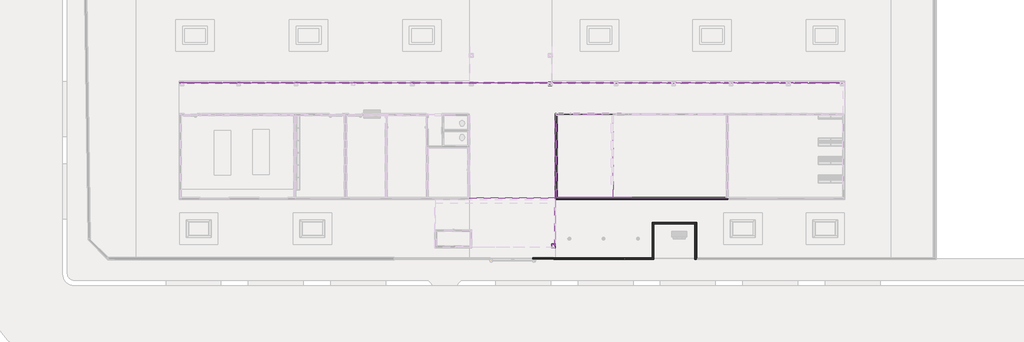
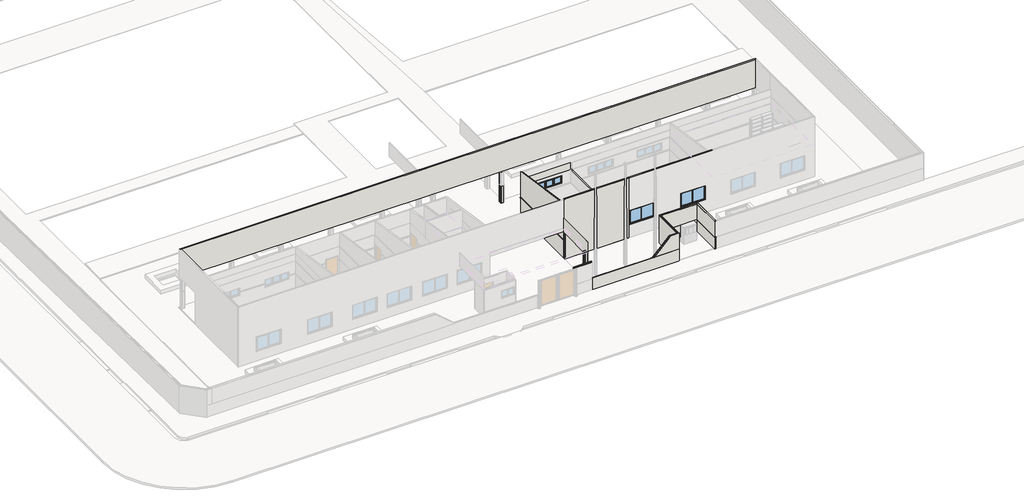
# One storey, part 11 of 28: 53 walls, 3 windows, 2 doors.
"""IFC4 building model written with IfcOpenShell, lengths in millimetres."""

from ifc_helpers import new_model, si_unit, frame, origin, origin_with_axes, place, context, project, spatial, polyline, outline, extrude, faceted_brep, transform, mapped, element, save
from components import door_29174598, pf15_l82cm_5bfc7586, window_2x1_20x1x10_9e9748dd, window_2x60x220_bcaba8dd

model = new_model("IFC4")

# Units and contexts
model_context = context("Model", 3, world=origin())
ifc_project = project(units=[si_unit("LENGTHUNIT", "METRE", prefix="MILLI")], contexts=[model_context])

# Site, building, storey
site = spatial("IfcSite", under=ifc_project)
building = spatial("IfcBuilding", under=site)
storey = spatial("IfcBuildingStorey", under=building, Name="Térreo", Elevation=0.0)

# Doors
placement = place(None, origin())
door_shape = door_29174598(model_context)
element("IfcDoor", 1, ObjectType="FDE_SO_Soleiras1 : SO14_SoleiraRampadaDesnívelAté2cm_L=14cm_Cimentado 2", at=placement, inside=storey, context=model_context, shape_type="MappedRepresentation", body=[
    mapped(door_shape, transform((-27113.0, 10630.0, 240.0), x_axis=(-1.0, 0.0, 0.0), y_axis=(0.0, -1.0, 0.0), z_axis=(0.0, 0.0, 1.0))),
])
pf15_l82cm_shape = pf15_l82cm_5bfc7586(model_context)
element("IfcDoor", 2, ObjectType="FDE_PF15_PF16_PF17_PortaemChapadeFerro : PF15_L82cm", at=placement, inside=storey, context=model_context, shape_type="MappedRepresentation", body=[
    mapped(pf15_l82cm_shape, transform((-27113.0, 10625.0, 240.0), x_axis=(-1.0, 0.0, 0.0), y_axis=(0.0, -1.0, 0.0), z_axis=(0.0, 0.0, 1.0))),
])

# Walls
element("IfcWall", 3, ObjectType="FDE_S712_AlvenariadeTijoloCerâmico/Baiano_Alvenaria_9cm - Existente", at=placement, inside=storey, context=model_context, shape_type="Brep", body=[
    faceted_brep([(-27630.0, 4430.0, 3500.0), (-27630.0, 4430.0, 0.0), (-27630.0, 4520.0, 0.0), (-27630.0, 10580.0, 0.0), (-27630.0, 10670.0, 0.0), (-27630.0, 10670.0, 3500.0), (-27630.0, 10580.0, 3500.0), (-27630.0, 4520.0, 3500.0), (-27720.0, 4430.0, 0.0), (-27720.0, 4430.0, 3500.0), (-27720.0, 10670.0, 3500.0), (-27720.0, 10670.0, 0.0)], [[[0, 1, 2, 3, 4, 5, 6, 7]], [[8, 9, 10, 11]], [[4, 3, 2, 1, 8, 11]], [[0, 7, 6, 5, 10, 9]], [[5, 4, 11, 10]], [[0, 9, 8, 1]]]),
])
element("IfcWall", 4, ObjectType="FDE_S712_AlvenariadeTijoloCerâmico/Baiano_Alvenaria_9cm - Existente", at=placement, inside=storey, context=model_context, shape_type="Brep", body=[
    faceted_brep([(-15180.0, 4520.0, 3500.0), (-15180.0, 4520.0, 0.0), (-15270.0, 4520.0, 0.0), (-27630.0, 4520.0, 0.0), (-27630.0, 4520.0, 3500.0), (-15835.0, 4520.0, 1235.0), (-15835.0, 4520.0, 2505.0), (-17905.0, 4520.0, 2505.0), (-17905.0, 4520.0, 1235.0), (-20135.0, 4520.0, 1235.0), (-20135.0, 4520.0, 2505.0), (-22205.0, 4520.0, 2505.0), (-22205.0, 4520.0, 1235.0), (-15180.0, 4430.0, 0.0), (-15180.0, 4430.0, 3500.0), (-27630.0, 4430.0, 3500.0), (-27630.0, 4430.0, 0.0), (-22251.4878545, 4430.0, 0.0), (-15835.0, 4430.0, 1235.0), (-17905.0, 4430.0, 1235.0), (-17905.0, 4430.0, 2505.0), (-15835.0, 4430.0, 2505.0), (-20135.0, 4430.0, 1235.0), (-22205.0, 4430.0, 1235.0), (-22205.0, 4430.0, 2505.0), (-20135.0, 4430.0, 2505.0)], [[[0, 1, 2, 3, 4], [5, 6, 7, 8], [9, 10, 11, 12]], [[13, 14, 15, 16, 17], [18, 19, 20, 21], [22, 23, 24, 25]], [[3, 2, 1, 13, 17, 16]], [[0, 4, 15, 14]], [[0, 14, 13, 1]], [[6, 5, 18, 21]], [[7, 6, 21, 20]], [[8, 7, 20, 19]], [[5, 8, 19, 18]], [[10, 9, 22, 25]], [[11, 10, 25, 24]], [[12, 11, 24, 23]], [[9, 12, 23, 22]], [[3, 16, 15, 4]]]),
])
element("IfcWall", 5, ObjectType="FDE_S712_AlvenariadeTijoloCerâmico/Baiano_Alvenaria_9cm - Existente", at=placement, inside=storey, context=model_context, shape_type="Brep", body=[
    faceted_brep([(-27630.0, 10580.0, 0.0), (-23620.0, 10580.0, 0.0), (-23620.0, 10580.0, 3500.0), (-27630.0, 10580.0, 3500.0), (-27630.0, 10580.0, 2900.0), (-27630.0, 10580.0, 1824.9435125), (-26431.0, 10580.0, 1965.0), (-26431.0, 10580.0, 2635.0), (-24361.0, 10580.0, 2635.0), (-24361.0, 10580.0, 1965.0), (-27530.0, 10580.0, 240.0), (-27530.0, 10580.0, 1824.9435125), (-27530.0, 10580.0, 2352.0), (-26696.0, 10580.0, 2352.0), (-26696.0, 10580.0, 1824.9435125), (-26696.0, 10580.0, 240.0), (-23620.0, 10670.0, 0.0), (-27630.0, 10670.0, 0.0), (-27630.0, 10670.0, 3500.0), (-23620.0, 10670.0, 3500.0), (-26431.0, 10670.0, 1965.0), (-24361.0, 10670.0, 1965.0), (-24361.0, 10670.0, 2635.0), (-26431.0, 10670.0, 2635.0), (-27530.0, 10670.0, 2352.0), (-27530.0, 10670.0, 240.0), (-26696.0, 10670.0, 240.0), (-26696.0, 10670.0, 2352.0)], [[[0, 1, 2, 3, 4, 5], [6, 7, 8, 9], [10, 11, 12, 13, 14, 15]], [[16, 17, 18, 19], [20, 21, 22, 23], [24, 25, 26, 27]], [[1, 0, 17, 16]], [[3, 2, 19, 18]], [[2, 1, 16, 19]], [[0, 5, 4, 3, 18, 17]], [[7, 6, 20, 23]], [[8, 7, 23, 22]], [[9, 8, 22, 21]], [[6, 9, 21, 20]], [[10, 25, 24, 12, 11]], [[12, 24, 27, 13]], [[13, 27, 26, 15, 14]], [[25, 10, 15, 26]]]),
])
element("IfcWall", 6, ObjectType="FDE_S712_AlvenariadeTijoloCerâmico/Baiano_Alvenaria_9cm - Existente", at=placement, inside=storey, context=model_context, shape_type="Brep", body=[
    faceted_brep([(-27630.0, 4520.0000015, 5007.4999998), (-27630.0, 4520.0000005, 2530.0), (-27630.0, 4520.0, 1824.9435125), (-27630.0, 4520.0, 1731.0528047), (-27630.0, 4520.0, 0.0), (-27630.0, 4550.0000005, 0.0), (-27630.0, 10550.0, 0.0), (-27630.0, 10580.0, 0.0), (-27630.0, 10580.0, 1731.0528047), (-27630.0, 10580.0, 1824.9435125), (-27630.0, 10580.0, 2900.0), (-27630.0, 10580.0, 4098.5), (-27720.0, 4520.0, 0.0), (-27720.0, 4520.0, 2530.0), (-27720.0, 4520.0000005, 5007.4999999), (-27720.0, 10580.0, 4098.5), (-27720.0, 10580.0, 0.0)], [[[0, 1, 2, 3, 4, 5, 6, 7, 8, 9, 10, 11]], [[12, 13, 14, 15, 16]], [[7, 6, 5, 4, 12, 16]], [[11, 10, 9, 8, 7, 16, 15]], [[0, 11, 15, 14]], [[1, 13, 12, 4, 3, 2]], [[0, 14, 13, 1]]]),
])
element("IfcWall", 7, ObjectType="FDE_S712_AlvenariadeTijoloCerâmico/Baiano_Alvenaria_9cm - Existente", at=placement, inside=storey, context=model_context, shape_type="Brep", body=[
    faceted_brep([(-15270.0, 4519.9999994, 0.0), (-15300.0, 4519.9999994, 0.0), (-27630.0, 4519.9999994, 0.0), (-27630.0, 4519.9999994, 220.0), (-27630.0, 4519.9999994, 1731.0528047), (-27630.0, 4519.9999994, 1824.9435125), (-22205.0, 4519.9999994, 1824.9435125), (-22205.0, 4519.9999994, 1731.0528047), (-22205.0, 4519.9999994, 1235.0), (-20135.0, 4519.9999994, 1235.0), (-20135.0, 4519.9999994, 1731.0528047), (-20135.0, 4519.9999994, 1824.9435125), (-17905.0, 4519.9999994, 1824.9435125), (-17905.0, 4519.9999994, 1731.0528047), (-17905.0, 4519.9999994, 1235.0), (-15835.0, 4519.9999994, 1235.0), (-15835.0, 4519.9999994, 1731.0528047), (-15835.0, 4519.9999994, 1824.9435125), (-15301.0, 4519.9999994, 1824.9435125), (-15301.0, 4519.9999994, 2900.0), (-27630.0, 4519.9999994, 2900.0), (-27630.0, 4519.9999994, 3500.0), (-27675.0, 4519.9999994, 3500.0), (-27675.0, 4519.9999994, 5400.0), (-15225.0, 4519.9999994, 5400.0), (-15225.0, 4519.9999994, 5045.0), (-15225.0, 4519.9999994, 4832.2457895), (-15270.0, 4519.9999994, 4832.2457895), (-15270.0, 4519.9999994, 2900.0), (-15270.0, 4519.9999994, 1824.9435125), (-15270.0, 4519.9999994, 1731.0528047), (-15270.0, 4519.9999994, 220.0), (-27630.0, 4429.9999994, 0.0), (-22251.4878545, 4429.9999994, 0.0), (-15270.0, 4429.9999994, 0.0), (-15270.0, 4429.9999994, 4832.2457895), (-15225.0, 4429.9999994, 4832.2457895), (-15225.0, 4429.9999994, 5045.0), (-15225.0, 4429.9999994, 5400.0), (-22251.4878545, 4429.9999994, 5400.0), (-27675.0, 4429.9999994, 5400.0), (-27675.0, 4429.9999994, 3500.0), (-27630.0, 4429.9999994, 3500.0), (-15835.0, 4429.9999994, 2505.0), (-15835.0, 4429.9999994, 1235.0), (-17905.0, 4429.9999994, 1235.0), (-17905.0, 4429.9999994, 2505.0), (-20135.0, 4429.9999994, 2505.0), (-20135.0, 4429.9999994, 1235.0), (-22205.0, 4429.9999994, 1235.0), (-22205.0, 4429.9999994, 2505.0), (-15835.0, 4519.0000005, 2505.0), (-15835.0, 4519.0000005, 1824.9435125), (-17905.0, 4519.0000005, 2505.0), (-17905.0, 4519.0000005, 1824.9435125), (-20135.0, 4519.0000005, 2505.0), (-20135.0, 4519.0000005, 1824.9435125), (-22205.0, 4519.0000005, 2505.0), (-22205.0, 4519.0000005, 1824.9435125), (-27630.0, 4519.0000005, 2900.0), (-15301.0, 4519.0000005, 2900.0), (-15301.0, 4519.0000005, 1824.9435125), (-27630.0, 4519.0000005, 1824.9435125)], [[[0, 1, 2, 3, 4, 5, 6, 7, 8, 9, 10, 11, 12, 13, 14, 15, 16, 17, 18, 19, 20, 21, 22, 23, 24, 25, 26, 27, 28, 29, 30, 31]], [[32, 33, 34, 35, 36, 37, 38, 39, 40, 41, 42], [43, 44, 45, 46], [47, 48, 49, 50]], [[44, 43, 51, 52, 17, 16, 15]], [[43, 46, 53, 51]], [[46, 45, 14, 13, 12, 54, 53]], [[15, 14, 45, 44]], [[48, 47, 55, 56, 11, 10, 9]], [[47, 50, 57, 55]], [[50, 49, 8, 7, 6, 58, 57]], [[9, 8, 49, 48]], [[0, 31, 30, 29, 28, 27, 35, 34]], [[59, 60, 61, 52, 51, 53, 54, 56, 55, 57, 58, 62]], [[56, 54, 12, 11]], [[52, 61, 18, 17]], [[62, 58, 6, 5]], [[60, 59, 20, 19]], [[61, 60, 19, 18]], [[2, 1, 0, 34, 33, 32]], [[24, 23, 40, 39, 38]], [[26, 25, 24, 38, 37, 36]], [[26, 36, 35, 27]], [[41, 22, 21, 42]], [[2, 32, 42, 21, 20, 59, 62, 5, 4, 3]], [[40, 23, 22, 41]]]),
])
element("IfcWall", 8, ObjectType="ACM Verde Folha_Marquise", at=placement, inside=storey, context=model_context, shape_type="Brep", body=[
    faceted_brep([(-27770.0, 4400.0000005, 2530.0), (-27770.0, 928.5326612, 2530.0), (-27770.0, 928.5326612, 2900.0), (-27770.0, 918.5326612, 2900.0), (-27770.0, 898.5326612, 2900.0), (-27770.0, 898.5326612, 3790.9420848), (-27770.0, 918.5326612, 3790.9420848), (-27770.0, 4400.0000017, 3790.9420848), (-27770.0, 4400.0000017, 2891.0), (-27750.0, 4400.0000005, 2530.0), (-27750.0, 4400.0000005, 2891.0), (-27750.0, 4400.0000017, 3790.9420848), (-27750.0, 898.5326612, 3790.9420848), (-27750.0, 898.5326612, 2900.0), (-27750.0, 928.5326612, 2900.0), (-27750.0, 928.5326612, 2530.0)], [[[0, 1, 2, 3, 4, 5, 6, 7, 8]], [[9, 10, 11, 12, 13, 14, 15]], [[1, 0, 9, 15]], [[7, 6, 5, 12, 11]], [[0, 8, 10, 9]], [[8, 7, 11, 10]], [[2, 1, 15, 14]], [[5, 4, 13, 12]], [[13, 4, 3, 2, 14]]]),
])
element("IfcWall", 9, ObjectType="Faixa - Revestimento Cerâmico Verde Folha 10x10cm", at=placement, inside=storey, context=model_context, shape_type="SweptSolid", body=[
    extrude(outline(polyline([(-20560.9444222, 32.3387091), (-27865.8320115, 32.3387091), (-27865.8320115, 62.3387091), (-20560.9444222, 62.3387091), (-20560.9444222, 32.3387091)])), origin_with_axes(), (0.0, 0.0, 1.0), 1156.7860555),
])
element("IfcWall", 10, ObjectType="Revestimento Cerâmico 10x10cm", at=placement, inside=storey, context=model_context, shape_type="Brep", body=[
    faceted_brep([(-27720.0, 4400.0000005, 220.0), (-27720.0, 10685.0, 220.0), (-27720.0, 10685.0, 1731.0528047), (-27720.0, 10655.0, 1731.0528047), (-27720.0, 4400.0000005, 1731.0528047), (-27750.0, 4400.0000005, 220.0), (-27750.0, 4400.0000005, 1731.0528047), (-27750.0, 10685.0, 1731.0528047), (-27750.0, 10685.0, 220.0)], [[[0, 1, 2, 3, 4]], [[5, 6, 7, 8]], [[1, 0, 5, 8]], [[4, 3, 2, 7, 6]], [[2, 1, 8, 7]], [[0, 4, 6, 5]]]),
])
element("IfcWall", 11, ObjectType="Pardes Externas_Pintura Acrílica Branco Neve", at=placement, inside=storey, context=model_context, shape_type="Brep", body=[
    faceted_brep([(-27720.0, 4520.0, 1824.9435125), (-27720.0, 10670.0, 1824.9435125), (-27720.0, 10685.0, 1824.9435125), (-27720.0, 10691.0, 1824.9435125), (-27720.0, 10691.0, 3944.0), (-27720.0, 10691.0, 4081.85), (-27720.0, 4520.0000015, 5007.4999998), (-27741.0, 4520.0, 1824.9435125), (-27741.0, 4520.0, 2530.0), (-27741.0, 4520.0, 5007.5), (-27741.0, 4541.0, 5004.35), (-27741.0, 10691.0, 4081.85), (-27741.0, 10691.0, 1824.9435125)], [[[0, 1, 2, 3, 4, 5, 6]], [[7, 8, 9, 10, 11, 12]], [[3, 2, 1, 0, 7, 12]], [[5, 4, 3, 12, 11]], [[6, 5, 11, 10, 9]], [[0, 6, 9, 8, 7]]]),
])
element("IfcWall", 12, ObjectType="Revestimento Cerâmico 10x10cm", at=placement, inside=storey, context=model_context, shape_type="Brep", body=[
    faceted_brep([(-27630.0, 10550.0, 220.0), (-27630.0, 4520.0, 220.0), (-27630.0, 4520.0, 1731.0528047), (-27630.0, 4550.0000005, 1731.0528047), (-27630.0, 4580.0000005, 1731.0528047), (-27630.0, 10550.0, 1731.0528047), (-27600.0, 10550.0, 220.0), (-27600.0, 10550.0, 1731.0528047), (-27600.0, 4520.0, 1731.0528047), (-27600.0, 4520.0, 220.0)], [[[0, 1, 2, 3, 4, 5]], [[6, 7, 8, 9]], [[1, 0, 6, 9]], [[5, 4, 3, 2, 8, 7]], [[0, 5, 7, 6]], [[2, 1, 9, 8]]]),
])
element("IfcWall", 13, ObjectType="Revestimento Cerâmico 10x10cm", at=placement, inside=storey, context=model_context, shape_type="Brep", body=[
    faceted_brep([(-27630.0, 4520.0000005, 0.0), (-15300.0, 4520.0000005, 0.0), (-15300.0, 4520.0000005, 220.0), (-15300.0, 4520.0000005, 1731.0528047), (-15835.0, 4520.0000005, 1731.0528047), (-15835.0, 4520.0000005, 1235.0), (-17905.0, 4520.0000005, 1235.0), (-17905.0, 4520.0000005, 1731.0528047), (-20135.0, 4520.0000005, 1731.0528047), (-20135.0, 4520.0000005, 1235.0), (-22205.0, 4520.0000005, 1235.0), (-22205.0, 4520.0000005, 1731.0528047), (-27630.0, 4520.0000005, 1731.0528047), (-15300.0, 4550.0000005, 0.0), (-27630.0, 4550.0000005, 0.0), (-27630.0, 4550.0000005, 1731.0528047), (-22205.0, 4550.0000005, 1731.0528047), (-22205.0, 4550.0000005, 1235.0), (-20135.0, 4550.0000005, 1235.0), (-20135.0, 4550.0000005, 1731.0528047), (-17905.0, 4550.0000005, 1731.0528047), (-17905.0, 4550.0000005, 1235.0), (-15835.0, 4550.0000005, 1235.0), (-15835.0, 4550.0000005, 1731.0528047), (-15300.0, 4550.0000005, 1731.0528047)], [[[0, 1, 2, 3, 4, 5, 6, 7, 8, 9, 10, 11, 12]], [[13, 14, 15, 16, 17, 18, 19, 20, 21, 22, 23, 24]], [[1, 0, 14, 13]], [[12, 11, 16, 15]], [[19, 8, 7, 20]], [[3, 24, 23, 4]], [[1, 13, 24, 3, 2]], [[18, 9, 8, 19]], [[10, 17, 16, 11]], [[9, 18, 17, 10]], [[22, 5, 4, 23]], [[6, 21, 20, 7]], [[5, 22, 21, 6]], [[14, 0, 12, 15]]]),
])
element("IfcWall", 14, ObjectType="Faixa - Revestimento Cerâmico Verde Folha 10x10cm", at=placement, inside=storey, context=model_context, shape_type="Brep", body=[
    faceted_brep([(-27530.0, 10580.0, 1731.0528047), (-27630.0, 10580.0, 1731.0528047), (-27630.0, 10580.0, 1824.9435125), (-27530.0, 10580.0, 1824.9435125), (-27530.0, 10550.0, 1731.0528047), (-27530.0, 10550.0, 1824.9435125), (-27600.0, 10550.0, 1824.9435125), (-27630.0, 10550.0, 1824.9435125), (-27630.0, 10550.0, 1731.0528047), (-27600.0, 10550.0, 1731.0528047)], [[[0, 1, 2, 3]], [[4, 5, 6, 7, 8, 9]], [[1, 0, 4, 9, 8]], [[3, 2, 7, 6, 5]], [[0, 3, 5, 4]], [[2, 1, 8, 7]]]),
])
element("IfcWall", 15, ObjectType="Faixa - Revestimento Cerâmico Verde Folha 10x10cm", at=placement, inside=storey, context=model_context, shape_type="Brep", body=[
    faceted_brep([(-27630.0, 10550.0, 1731.0528047), (-27630.0, 4550.0000005, 1731.0528047), (-27630.0, 4520.0, 1731.0528047), (-27630.0, 4520.0, 1824.9435125), (-27630.0, 4550.0000005, 1824.9435125), (-27630.0, 10550.0, 1824.9435125), (-27600.0, 10550.0, 1731.0528047), (-27600.0, 10550.0, 1824.9435125), (-27600.0, 4520.0, 1824.9435125), (-27600.0, 4520.0, 1731.0528047)], [[[0, 1, 2, 3, 4, 5]], [[6, 7, 8, 9]], [[2, 1, 0, 6, 9]], [[5, 4, 3, 8, 7]], [[0, 5, 7, 6]], [[3, 2, 9, 8]]]),
])
element("IfcWall", 16, ObjectType="Faixa - Revestimento Cerâmico Verde Folha 10x10cm", at=placement, inside=storey, context=model_context, shape_type="SweptSolid", body=[
    extrude(outline(polyline([(-15300.0, 4580.0000005), (-15300.0, 4550.0000005), (-15835.0, 4550.0000005), (-15835.0, 4580.0000005), (-15300.0, 4580.0000005)])), frame((0.0, 0.0, 1731.0528047), z_axis=(0.0, 0.0, 1.0), x_axis=(1.0, 0.0, 0.0)), (0.0, 0.0, 1.0), 93.8907079),
    extrude(outline(polyline([(-20135.0, 4550.0000005), (-20135.0, 4580.0000005), (-17905.0, 4580.0000005), (-17905.0, 4550.0000005), (-20135.0, 4550.0000005)])), frame((0.0, 0.0, 1731.0528047), z_axis=(0.0, 0.0, 1.0), x_axis=(1.0, 0.0, 0.0)), (0.0, 0.0, 1.0), 93.8907079),
    extrude(outline(polyline([(-27630.0, 4550.0000005), (-27630.0, 4580.0000005), (-22205.0, 4580.0000005), (-22205.0, 4550.0000005), (-27630.0, 4550.0000005)])), frame((0.0, 0.0, 1731.0528047), z_axis=(0.0, 0.0, 1.0), x_axis=(1.0, 0.0, 0.0)), (0.0, 0.0, 1.0), 93.8907079),
])
element("IfcWall", 17, ObjectType="Pardes Internas_Pintura Acrílica Branco Neve 2", at=placement, inside=storey, context=model_context, shape_type="Brep", body=[
    faceted_brep([(-27630.0, 10549.0, 1824.9435125), (-27630.0, 4580.0000005, 1824.9435125), (-27630.0, 4550.0000005, 1824.9435125), (-27630.0, 4520.0, 1824.9435125), (-27630.0, 4520.0, 2530.0), (-27630.0, 4520.0, 2900.0), (-27630.0, 10549.0, 2900.0), (-27599.0, 10549.0, 1824.9435125), (-27599.0, 10549.0, 2900.0), (-27599.0, 4520.0, 2900.0), (-27599.0, 4520.0, 1824.9435125), (-27600.0, 4520.0, 1824.9435125)], [[[0, 1, 2, 3, 4, 5, 6]], [[7, 8, 9, 10]], [[3, 2, 1, 0, 7, 10, 11]], [[6, 5, 9, 8]], [[0, 6, 8, 7]], [[3, 11, 10, 9, 5, 4]]]),
])
element("IfcWall", 18, ObjectType="Pardes Internas_Pintura Acrílica Branco Neve 2", at=placement, inside=storey, context=model_context, shape_type="Brep", body=[
    faceted_brep([(-15301.0, 4519.0000005, 2900.0), (-27630.0, 4519.0000005, 2900.0), (-27630.0, 4519.0000005, 1824.9435125), (-22205.0, 4519.0000005, 1824.9435125), (-22205.0, 4519.0000005, 2505.0), (-20135.0, 4519.0000005, 2505.0), (-20135.0, 4519.0000005, 1824.9435125), (-17905.0, 4519.0000005, 1824.9435125), (-17905.0, 4519.0000005, 2505.0), (-15835.0, 4519.0000005, 2505.0), (-15835.0, 4519.0000005, 1824.9435125), (-15301.0, 4519.0000005, 1824.9435125), (-27630.0, 4550.0000005, 2900.0), (-15301.0, 4550.0000005, 2900.0), (-15301.0, 4550.0000005, 1824.9435125), (-15835.0, 4550.0000005, 1824.9435125), (-15835.0, 4550.0000005, 2505.0), (-17905.0, 4550.0000005, 2505.0), (-17905.0, 4550.0000005, 1824.9435125), (-20135.0, 4550.0000005, 1824.9435125), (-20135.0, 4550.0000005, 2505.0), (-22205.0, 4550.0000005, 2505.0), (-22205.0, 4550.0000005, 1824.9435125), (-27630.0, 4550.0000005, 1824.9435125), (-17905.0, 4519.9999994, 1824.9435125), (-20135.0, 4519.9999994, 1824.9435125), (-15301.0, 4520.0, 1824.9435125), (-15835.0, 4519.9999994, 1824.9435125), (-27630.0, 4519.9999994, 1824.9435125), (-22205.0, 4519.9999994, 1824.9435125), (-15301.0, 4520.0, 2900.0), (-27630.0, 4519.9999994, 2900.0)], [[[0, 1, 2, 3, 4, 5, 6, 7, 8, 9, 10, 11]], [[12, 13, 14, 15, 16, 17, 18, 19, 20, 21, 22, 23]], [[18, 24, 7, 6, 25, 19]], [[14, 26, 11, 10, 27, 15]], [[2, 28, 23, 22, 29, 3]], [[1, 0, 30, 13, 12, 31]], [[11, 26, 14, 13, 30, 0]], [[9, 16, 15, 27, 10]], [[16, 9, 8, 17]], [[17, 8, 7, 24, 18]], [[5, 20, 19, 25, 6]], [[20, 5, 4, 21]], [[21, 4, 3, 29, 22]], [[23, 28, 2, 1, 31, 12]]]),
])
element("IfcWall", 19, ObjectType="FDE_S712_AlvenariadeTijoloCerâmico/Baiano_Alvenaria_9cm", at=placement, inside=storey, context=model_context, shape_type="SweptSolid", body=[
    extrude(outline(polyline([(-55048.4091269, 12950.0), (-6770.0, 12950.0), (-6770.0, 12860.0), (-55048.4091269, 12860.0), (-55048.4091269, 12950.0)])), frame((0.0, 0.0, 2900.0), z_axis=(0.0, 0.0, 1.0), x_axis=(1.0, 0.0, 0.0)), (0.0, 0.0, 1.0), 2500.0),
])
element("IfcWall", 20, ObjectType="Pintura Externa - Tinta Acrílica Verbrás  Verde Água", at=placement, inside=storey, context=model_context, shape_type="Brep", body=[
    faceted_brep([(-55093.4091269, 12950.0, 2900.0), (-6680.0, 12950.0, 2900.0), (-6680.0, 12950.0, 5400.0), (-55093.4091269, 12950.0, 5400.0), (-55093.4091269, 12980.0, 2900.0), (-55093.4091269, 12980.0, 5400.0), (-6680.0, 12980.0, 5400.0), (-6680.0, 12980.0, 2900.0), (-27979.0, 12980.0, 2900.0), (-27999.0, 12980.0, 2900.0), (-33954.4091269, 12980.0, 2900.0), (-33974.4091269, 12980.0, 2900.0)], [[[0, 1, 2, 3]], [[4, 5, 6, 7, 8, 9, 10, 11]], [[1, 0, 4, 11, 10, 9, 8, 7]], [[3, 2, 6, 5]], [[2, 1, 7, 6]], [[0, 3, 5, 4]]]),
])
element("IfcWall", 21, ObjectType="Pardes Externas_Pintura Acrílica Branco Neve", at=placement, inside=storey, context=model_context, shape_type="Brep", body=[
    faceted_brep([(-28000.7378789, 1128.5326612, 1794.0), (-27979.7378789, 1128.5326612, 1794.0), (-27779.7378789, 1128.5326612, 1794.0), (-27758.7378789, 1128.5326612, 1794.0), (-27758.7378789, 1128.5326612, 2900.0), (-27779.7378789, 1128.5326612, 2900.0), (-27979.7378789, 1128.5326612, 2900.0), (-28000.7378789, 1128.5326612, 2900.0), (-28000.7378789, 1149.5326612, 1794.0), (-28000.7378789, 1149.5326612, 2900.0), (-27758.7378789, 1149.5326612, 2900.0), (-27758.7378789, 1149.5326612, 1794.0)], [[[0, 1, 2, 3, 4, 5, 6, 7]], [[8, 9, 10, 11]], [[3, 2, 1, 0, 8, 11]], [[7, 6, 5, 4, 10, 9]], [[0, 7, 9, 8]], [[4, 3, 11, 10]]]),
])
element("IfcWall", 22, ObjectType="Revestimento Cerâmico 10x10cm", at=placement, inside=storey, context=model_context, shape_type="Brep", body=[
    faceted_brep([(-28009.7378789, 1128.5326612, 194.0), (-27979.7378789, 1128.5326612, 194.0), (-27779.7378789, 1128.5326612, 194.0), (-27749.7378789, 1128.5326612, 194.0), (-27749.7378789, 1128.5326612, 1694.0), (-27779.7378789, 1128.5326612, 1694.0), (-27979.7378789, 1128.5326612, 1694.0), (-28009.7378789, 1128.5326612, 1694.0), (-28009.7378789, 1158.5326612, 194.0), (-28009.7378789, 1158.5326612, 1694.0), (-27749.7378789, 1158.5326612, 1694.0), (-27749.7378789, 1158.5326612, 194.0)], [[[0, 1, 2, 3, 4, 5, 6, 7]], [[8, 9, 10, 11]], [[3, 2, 1, 0, 8, 11]], [[7, 6, 5, 4, 10, 9]], [[0, 7, 9, 8]], [[4, 3, 11, 10]]]),
])
element("IfcWall", 23, ObjectType="Revestimento Cerâmico 10x10cm", at=placement, inside=storey, context=model_context, shape_type="Brep", body=[
    faceted_brep([(-27979.7378789, 898.5326612, 194.0), (-27979.7378789, 928.5326612, 194.0), (-27979.7378789, 1128.5326612, 194.0), (-27979.7378789, 1128.5326612, 1694.0), (-27979.7378789, 928.5326612, 1694.0), (-27979.7378789, 898.5326612, 1694.0), (-28009.7378789, 898.5326612, 194.0), (-28009.7378789, 898.5326612, 1694.0), (-28009.7378789, 1128.5326612, 1694.0), (-28009.7378789, 1128.5326612, 194.0)], [[[0, 1, 2, 3, 4, 5]], [[6, 7, 8, 9]], [[2, 1, 0, 6, 9]], [[5, 4, 3, 8, 7]], [[3, 2, 9, 8]], [[0, 5, 7, 6]]]),
])
element("IfcWall", 24, ObjectType="Revestimento Cerâmico 10x10cm", at=placement, inside=storey, context=model_context, shape_type="Brep", body=[
    faceted_brep([(-27779.7378789, 1128.5326612, 194.0), (-27779.7378789, 928.5326612, 194.0), (-27779.7378789, 898.5326612, 194.0), (-27779.7378789, 898.5326612, 1694.0), (-27779.7378789, 928.5326612, 1694.0), (-27779.7378789, 1128.5326612, 1694.0), (-27749.7378789, 1128.5326612, 194.0), (-27749.7378789, 1128.5326612, 1694.0), (-27749.7378789, 898.5326612, 1694.0), (-27749.7378789, 898.5326612, 194.0)], [[[0, 1, 2, 3, 4, 5]], [[6, 7, 8, 9]], [[2, 1, 0, 6, 9]], [[5, 4, 3, 8, 7]], [[0, 5, 7, 6]], [[3, 2, 9, 8]]]),
])
element("IfcWall", 25, ObjectType="Faixa - Revestimento Cerâmico Verde Folha 10x10cm", at=placement, inside=storey, context=model_context, shape_type="Brep", body=[
    faceted_brep([(-28009.7378789, 1128.5326612, 1694.0), (-27979.7378789, 1128.5326612, 1694.0), (-27779.7378789, 1128.5326612, 1694.0), (-27749.7378789, 1128.5326612, 1694.0), (-27749.7378789, 1128.5326612, 1794.0), (-27779.7378789, 1128.5326612, 1794.0), (-27979.7378789, 1128.5326612, 1794.0), (-28009.7378789, 1128.5326612, 1794.0), (-28009.7378789, 1158.5326612, 1694.0), (-28009.7378789, 1158.5326612, 1794.0), (-27749.7378789, 1158.5326612, 1794.0), (-27749.7378789, 1158.5326612, 1694.0)], [[[0, 1, 2, 3, 4, 5, 6, 7]], [[8, 9, 10, 11]], [[3, 2, 1, 0, 8, 11]], [[7, 6, 5, 4, 10, 9]], [[4, 3, 11, 10]], [[0, 7, 9, 8]]]),
])
element("IfcWall", 26, ObjectType="Faixa - Revestimento Cerâmico Verde Folha 10x10cm", at=placement, inside=storey, context=model_context, shape_type="Brep", body=[
    faceted_brep([(-27779.7378789, 1128.5326612, 1694.0), (-27779.7378789, 928.5326612, 1694.0), (-27779.7378789, 898.5326612, 1694.0), (-27779.7378789, 898.5326612, 1794.0), (-27779.7378789, 928.5326612, 1794.0), (-27779.7378789, 1128.5326612, 1794.0), (-27749.7378789, 1128.5326612, 1694.0), (-27749.7378789, 1128.5326612, 1794.0), (-27749.7378789, 898.5326612, 1794.0), (-27749.7378789, 898.5326612, 1694.0)], [[[0, 1, 2, 3, 4, 5]], [[6, 7, 8, 9]], [[2, 1, 0, 6, 9]], [[5, 4, 3, 8, 7]], [[0, 5, 7, 6]], [[3, 2, 9, 8]]]),
])
element("IfcWall", 27, ObjectType="Faixa - Revestimento Cerâmico Verde Folha 10x10cm", at=placement, inside=storey, context=model_context, shape_type="Brep", body=[
    faceted_brep([(-28009.7378789, 898.5326612, 1694.0), (-27779.7378789, 898.5326612, 1694.0), (-27779.7378789, 898.5326612, 1794.0), (-28009.7378789, 898.5326612, 1794.0), (-28009.7378789, 928.5326612, 1694.0), (-28009.7378789, 928.5326612, 1794.0), (-27979.7378789, 928.5326612, 1794.0), (-27779.7378789, 928.5326612, 1794.0), (-27779.7378789, 928.5326612, 1694.0), (-27979.7378789, 928.5326612, 1694.0), (-27779.7378789, 907.5326612, 1794.0)], [[[0, 1, 2, 3]], [[4, 5, 6, 7, 8, 9]], [[1, 0, 4, 9, 8]], [[3, 2, 10, 7, 6, 5]], [[2, 1, 8, 7, 10]], [[0, 3, 5, 4]]]),
])
element("IfcWall", 28, ObjectType="Faixa - Revestimento Cerâmico Verde Folha 10x10cm", at=placement, inside=storey, context=model_context, shape_type="SweptSolid", body=[
    extrude(outline(polyline([(-28009.7378789, 928.5326612), (-28009.7378789, 1128.5326612), (-27979.7378789, 1128.5326612), (-27979.7378789, 928.5326612), (-28009.7378789, 928.5326612)])), frame((0.0, 0.0, 1694.0), z_axis=(0.0, 0.0, 1.0), x_axis=(1.0, 0.0, 0.0)), (0.0, 0.0, 1.0), 100.0),
])
element("IfcWall", 29, ObjectType="Pardes Externas_Pintura Acrílica Branco Neve", at=placement, inside=storey, context=model_context, shape_type="SweptSolid", body=[
    extrude(outline(polyline([(-27779.7378789, 907.5326612), (-27979.7378789, 907.5326612), (-27979.7378789, 928.5326612), (-27779.7378789, 928.5326612), (-27779.7378789, 907.5326612)])), frame((0.0, 0.0, 1794.0), z_axis=(0.0, 0.0, 1.0), x_axis=(1.0, 0.0, 0.0)), (0.0, 0.0, 1.0), 1106.0),
])
element("IfcWall", 30, ObjectType="Pardes Externas_Pintura Acrílica Branco Neve", at=placement, inside=storey, context=model_context, shape_type="Brep", body=[
    faceted_brep([(-27779.7378789, 1128.5326612, 1794.0), (-27779.7378789, 928.5326612, 1794.0), (-27779.7378789, 907.5326612, 1794.0), (-27779.7378789, 907.5326612, 2900.0), (-27779.7378789, 918.5326612, 2900.0), (-27779.7378789, 928.5326612, 2900.0), (-27779.7378789, 1128.5326612, 2900.0), (-27758.7378789, 1128.5326612, 1794.0), (-27758.7378789, 1128.5326612, 2900.0), (-27758.7378789, 907.5326612, 2900.0), (-27758.7378789, 907.5326612, 1794.0)], [[[0, 1, 2, 3, 4, 5, 6]], [[7, 8, 9, 10]], [[2, 1, 0, 7, 10]], [[6, 5, 4, 3, 9, 8]], [[0, 6, 8, 7]], [[2, 10, 9, 3]]]),
])
element("IfcWall", 31, ObjectType="Pardes Externas_Pintura Acrílica Branco Neve", at=placement, inside=storey, context=model_context, shape_type="Brep", body=[
    faceted_brep([(-28000.7378789, 1128.5326612, 1794.0), (-28000.7378789, 907.5326612, 1794.0), (-28000.7378789, 907.5326612, 2900.0), (-28000.7378789, 1128.5326612, 2900.0), (-27979.7378789, 1128.5326612, 1794.0), (-27979.7378789, 1128.5326612, 2900.0), (-27979.7378789, 928.5326612, 2900.0), (-27979.7378789, 907.5326612, 2900.0), (-27979.7378789, 907.5326612, 1794.0), (-27979.7378789, 928.5326612, 1794.0)], [[[0, 1, 2, 3]], [[4, 5, 6, 7, 8, 9]], [[1, 0, 4, 9, 8]], [[3, 2, 7, 6, 5]], [[2, 1, 8, 7]], [[0, 3, 5, 4]]]),
])
element("IfcWall", 32, ObjectType="Faixa - Revestimento Cerâmico Verde Folha 10x10cm", at=placement, inside=storey, context=model_context, shape_type="Brep", body=[
    faceted_brep([(-27720.0, 4400.0000005, 1731.0528047), (-27720.0, 10685.0, 1731.0528047), (-27720.0, 10685.0, 1824.9435125), (-27720.0, 4520.0, 1824.9435125), (-27720.0, 4400.0000005, 1824.9435125), (-27750.0, 4400.0000005, 1731.0528047), (-27750.0, 4400.0000005, 1824.9435125), (-27750.0, 10685.0, 1824.9435125), (-27750.0, 10685.0, 1731.0528047)], [[[0, 1, 2, 3, 4]], [[5, 6, 7, 8]], [[1, 0, 5, 8]], [[4, 3, 2, 7, 6]], [[2, 1, 8, 7]], [[0, 4, 6, 5]]]),
])
element("IfcWall", 33, ObjectType="Pardes Internas_Pintura Acrílica Branco Neve 2", at=placement, inside=storey, context=model_context, shape_type="SweptSolid", body=[
    extrude(outline(polyline([(-23530.0, 4520.0), (-23530.0, 10580.0), (-23499.0, 10580.0), (-23499.0, 4520.0), (-23530.0, 4520.0)])), frame((0.0, 0.0, 1824.9435125), z_axis=(0.0, 0.0, 1.0), x_axis=(1.0, 0.0, 0.0)), (0.0, 0.0, 1.0), 1075.0564875),
])
element("IfcWall", 34, ObjectType="Pardes Externas_Pintura Acrílica Branco Neve", at=placement, inside=storey, context=model_context, shape_type="SweptSolid", body=[
    extrude(outline(polyline([(4520.0, 5007.5), (4541.0, 5004.35), (4541.0, 2530.0), (4520.0, 2530.0), (4520.0, 5007.5)])), frame((-33983.4091269, 0.0, 0.0), z_axis=(1.0, 0.0, 0.0), x_axis=(0.0, 1.0, 0.0)), (0.0, 0.0, 1.0), 6242.4091269),
])
element("IfcWall", 35, ObjectType="Pardes Externas_Pintura Acrílica Branco Neve", at=placement, inside=storey, context=model_context, shape_type="Brep", body=[
    faceted_brep([(-28221.0, 12950.0, 1794.0), (-28200.0, 12950.0, 1794.0), (-28000.0, 12950.0, 1794.0), (-27979.0, 12950.0, 1794.0), (-27979.0, 12950.0, 2900.0), (-28000.0, 12950.0, 2900.0), (-28200.0, 12950.0, 2900.0), (-28221.0, 12950.0, 2900.0), (-28221.0, 12971.0, 1794.0), (-28221.0, 12971.0, 2900.0), (-27999.0, 12971.0, 2900.0), (-27979.0, 12971.0, 2900.0), (-27979.0, 12971.0, 2530.0), (-27979.0, 12971.0, 1794.0)], [[[0, 1, 2, 3, 4, 5, 6, 7]], [[8, 9, 10, 11, 12, 13]], [[3, 2, 1, 0, 8, 13]], [[7, 6, 5, 4, 11, 10, 9]], [[0, 7, 9, 8]], [[3, 13, 12, 11, 4]]]),
])
element("IfcWall", 36, ObjectType="Revestimento Cerâmico 10x10cm", at=placement, inside=storey, context=model_context, shape_type="Brep", body=[
    faceted_brep([(-28230.0, 12950.0, 194.0), (-28200.0, 12950.0, 194.0), (-28000.0, 12950.0, 194.0), (-27970.0, 12950.0, 194.0), (-27970.0, 12950.0, 1694.0), (-28000.0, 12950.0, 1694.0), (-28200.0, 12950.0, 1694.0), (-28230.0, 12950.0, 1694.0), (-28230.0, 12980.0, 194.0), (-28230.0, 12980.0, 1694.0), (-27970.0, 12980.0, 1694.0), (-27970.0, 12980.0, 194.0)], [[[0, 1, 2, 3, 4, 5, 6, 7]], [[8, 9, 10, 11]], [[3, 2, 1, 0, 8, 11]], [[7, 6, 5, 4, 10, 9]], [[0, 7, 9, 8]], [[4, 3, 11, 10]]]),
])
element("IfcWall", 37, ObjectType="Revestimento Cerâmico 10x10cm", at=placement, inside=storey, context=model_context, shape_type="Brep", body=[
    faceted_brep([(-28200.0, 12720.0, 194.0), (-28200.0, 12750.0, 194.0), (-28200.0, 12950.0, 194.0), (-28200.0, 12950.0, 1694.0), (-28200.0, 12750.0, 1694.0), (-28200.0, 12720.0, 1694.0), (-28230.0, 12720.0, 194.0), (-28230.0, 12720.0, 1694.0), (-28230.0, 12950.0, 1694.0), (-28230.0, 12950.0, 194.0)], [[[0, 1, 2, 3, 4, 5]], [[6, 7, 8, 9]], [[2, 1, 0, 6, 9]], [[5, 4, 3, 8, 7]], [[3, 2, 9, 8]], [[0, 5, 7, 6]]]),
])
element("IfcWall", 38, ObjectType="Revestimento Cerâmico 10x10cm", at=placement, inside=storey, context=model_context, shape_type="SweptSolid", body=[
    extrude(outline(polyline([(-28000.0, 12720.0), (-28200.0, 12720.0), (-28200.0, 12750.0), (-28000.0, 12750.0), (-28000.0, 12720.0)])), frame((0.0, 0.0, 194.0), z_axis=(0.0, 0.0, 1.0), x_axis=(1.0, 0.0, 0.0)), (0.0, 0.0, 1.0), 1500.0),
])
element("IfcWall", 39, ObjectType="Faixa - Revestimento Cerâmico Verde Folha 10x10cm", at=placement, inside=storey, context=model_context, shape_type="Brep", body=[
    faceted_brep([(-27765.0, 10715.0, 1731.0528047), (-27765.0, 10715.0, 1824.9435125), (-27530.0, 10715.0, 1824.9435125), (-27530.0, 10715.0, 1731.0528047), (-27765.0, 10685.0, 1824.9435125), (-27765.0, 10685.0, 1731.0528047), (-27750.0, 10685.0, 1731.0528047), (-27720.0, 10685.0, 1731.0528047), (-27530.0, 10685.0, 1731.0528047), (-27530.0, 10685.0, 1824.9435125), (-27720.0, 10685.0, 1824.9435125), (-27750.0, 10685.0, 1824.9435125), (-27530.0, 10691.0, 1824.9435125)], [[[0, 1, 2, 3]], [[4, 5, 6, 7, 8, 9, 10, 11]], [[5, 0, 3, 8, 7, 6]], [[1, 0, 5, 4]], [[1, 4, 11, 10, 9, 12, 2]], [[3, 2, 12, 9, 8]]]),
    faceted_brep([(-22865.0, 10715.0, 1824.9435125), (-22865.0, 10715.0, 1731.0528047), (-26696.0, 10715.0, 1731.0528047), (-26696.0, 10715.0, 1824.9435125), (-22865.0, 10685.0, 1731.0528047), (-22865.0, 10685.0, 1824.9435125), (-26696.0, 10685.0, 1824.9435125), (-26696.0, 10685.0, 1731.0528047), (-26696.0, 10691.0, 1824.9435125)], [[[0, 1, 2, 3]], [[4, 5, 6, 7]], [[1, 4, 7, 2]], [[5, 0, 3, 8, 6]], [[1, 0, 5, 4]], [[3, 2, 7, 6, 8]]]),
])
element("IfcWall", 40, ObjectType="FDE_S712_AlvenariadeTijoloCerâmico/Baiano_Alvenaria_9cm", at=placement, inside=storey, context=model_context, shape_type="Brep", body=[
    faceted_brep([(-20671.9444222, 2647.8462134, 0.0), (-20581.9444222, 2647.8462134, 0.0), (-17557.1088381, 2647.8462134, 0.0), (-17467.1088381, 2647.8462134, 0.0), (-17467.1088381, 2647.8462134, 2545.9092161), (-17557.1088381, 2647.8462134, 2545.9092161), (-17578.1088381, 2647.8462134, 2545.9092161), (-20560.9444222, 2647.8462134, 2545.9092161), (-20581.9444222, 2647.8462134, 2545.9092161), (-20671.9444222, 2647.8462134, 2545.9092161), (-20671.9444222, 2737.8462134, 0.0), (-20671.9444222, 2737.8462134, 2545.9092161), (-17467.1088381, 2737.8462134, 2545.9092161), (-17467.1088381, 2737.8462134, 0.0)], [[[0, 1, 2, 3, 4, 5, 6, 7, 8, 9]], [[10, 11, 12, 13]], [[3, 2, 1, 0, 10, 13]], [[9, 8, 7, 6, 5, 4, 12, 11]], [[0, 9, 11, 10]], [[4, 3, 13, 12]]]),
])
element("IfcWall", 41, ObjectType="FDE_S712_AlvenariadeTijoloCerâmico/Baiano_Alvenaria_9cm", at=placement, inside=storey, context=model_context, shape_type="Brep", body=[
    faceted_brep([(-20671.9444222, 2647.8462134, 0.0), (-20671.9444222, 173.3387091, 0.0), (-20671.9444222, 152.3387091, 0.0), (-20671.9444222, 152.3387091, 2545.9092161), (-20671.9444222, 173.3387091, 2545.9092161), (-20671.9444222, 2647.8462134, 2545.9092161), (-20581.9444222, 2647.8462134, 0.0), (-20581.9444222, 2647.8462134, 2545.9092161), (-20581.9444222, 152.3387091, 2545.9092161), (-20581.9444222, 152.3387091, 0.0)], [[[0, 1, 2, 3, 4, 5]], [[6, 7, 8, 9]], [[2, 1, 0, 6, 9]], [[5, 4, 3, 8, 7]], [[0, 5, 7, 6]], [[3, 2, 9, 8]]]),
])
element("IfcWall", 42, ObjectType="FDE_S712_AlvenariadeTijoloCerâmico/Baiano_Alvenaria_9cm", at=placement, inside=storey, context=model_context, shape_type="Brep", body=[
    faceted_brep([(-17467.1088381, 32.3387091, 1156.7860555), (-17467.1088381, 32.3387091, 0.0), (-17467.1088381, 62.3387091, 0.0), (-17467.1088381, 152.3387091, 0.0), (-17467.1088381, 173.3387091, 0.0), (-17467.1088381, 2647.8462134, 0.0), (-17467.1088381, 2647.8462134, 2545.9092161), (-17467.1088381, 173.3387091, 2545.9092161), (-17467.1088381, 152.3387091, 2545.9092161), (-17467.1088381, 62.3387091, 2545.9092161), (-17467.1088381, 62.3387091, 1156.7860555), (-17557.1088381, 32.3387091, 0.0), (-17557.1088381, 32.3387091, 1156.7860555), (-17557.1088381, 62.3387091, 1156.7860555), (-17557.1088381, 62.3387091, 2545.9092161), (-17557.1088381, 2626.8462134, 2545.9092161), (-17557.1088381, 2647.8462134, 2545.9092161), (-17557.1088381, 2647.8462134, 1156.7860555), (-17557.1088381, 2647.8462134, 0.0)], [[[0, 1, 2, 3, 4, 5, 6, 7, 8, 9, 10]], [[11, 12, 13, 14, 15, 16, 17, 18]], [[5, 4, 3, 2, 1, 11, 18]], [[9, 8, 7, 6, 16, 15, 14]], [[6, 5, 18, 17, 16]], [[10, 13, 12, 0]], [[0, 12, 11, 1]], [[10, 9, 14, 13]]]),
])
element("IfcWall", 43, ObjectType="Pardes Externas_Pintura Acrílica Branco Neve", at=placement, inside=storey, context=model_context, shape_type="Brep", body=[
    faceted_brep([(-29365.8320115, 173.3387091, 2545.9092161), (-27865.8320115, 173.3387091, 2545.9092161), (-27865.8320115, 173.3387091, 1049.7860555), (-22810.2647657, 173.3387091, 1049.7860555), (-21314.1416051, 173.3387091, 2545.9092161), (-20692.9444222, 173.3387091, 2545.9092161), (-20671.9444222, 173.3387091, 2545.9092161), (-20671.9444222, 173.3387091, 100.0), (-20671.9444222, 173.3387091, 0.0), (-29365.8320115, 173.3387091, 0.0), (-29365.8320115, 152.3387091, 2545.9092161), (-29365.8320115, 152.3387091, 0.0), (-20671.9444222, 152.3387091, 0.0), (-20671.9444222, 152.3387091, 2545.9092161), (-21314.1416051, 152.3387091, 2545.9092161), (-22810.2647657, 152.3387091, 1049.7860555), (-27865.8320115, 152.3387091, 1049.7860555), (-27865.8320115, 152.3387091, 2545.9092161)], [[[0, 1, 2, 3, 4, 5, 6, 7, 8, 9]], [[10, 11, 12, 13, 14, 15, 16, 17]], [[1, 0, 10, 17]], [[2, 1, 17, 16]], [[0, 9, 11, 10]], [[3, 2, 16, 15]], [[9, 8, 12, 11]], [[6, 5, 4, 14, 13]], [[4, 3, 15, 14]], [[8, 7, 6, 13, 12]]]),
])
element("IfcWall", 44, ObjectType="Pardes Externas_Pintura Acrílica Branco Neve", at=placement, inside=storey, context=model_context, shape_type="SweptSolid", body=[
    extrude(outline(polyline([(2551.1739106, -20560.9444222), (2551.1739106, -21287.8769106), (1156.7860555, -22682.2647657), (1156.7860555, -20560.9444222), (2551.1739106, -20560.9444222)])), frame((0.0, 41.3387091, 0.0), z_axis=(0.0, 1.0, 0.0), x_axis=(0.0, 0.0, 1.0)), (0.0, 0.0, 1.0), 21.0),
])
element("IfcWall", 45, ObjectType="FDE_S712_AlvenariadeTijoloCerâmico/Baiano_Alvenaria_9cm - Existente", at=placement, inside=storey, context=model_context, shape_type="SweptSolid", body=[
    extrude(outline(polyline([(2545.9092161, -29386.8320115), (0.0, -29386.8320115), (0.0, -20551.9444222), (1156.7860555, -20551.9444222), (1156.7860555, -20560.9444222), (2545.9092161, -20560.9444222), (2545.9092161, -21305.2540158), (1049.7860555, -22801.3771764), (1049.7860555, -27886.8320115), (2545.9092161, -27886.8320115), (2545.9092161, -29386.8320115)])), frame((0.0, 62.3387091, 0.0), z_axis=(0.0, 1.0, 0.0), x_axis=(0.0, 0.0, 1.0)), (0.0, 0.0, 1.0), 90.0),
])
element("IfcWall", 46, ObjectType="Pardes Externas_Pintura Acrílica Branco Neve", at=placement, inside=storey, context=model_context, shape_type="Brep", body=[
    faceted_brep([(-20671.9444222, 173.3387091, 100.0), (-20671.9444222, 2737.8462134, 100.0), (-20671.9444222, 2758.8462134, 100.0), (-20671.9444222, 2758.8462134, 2545.9092161), (-20671.9444222, 2737.8462134, 2545.9092161), (-20671.9444222, 173.3387091, 2545.9092161), (-20692.9444222, 173.3387091, 100.0), (-20692.9444222, 173.3387091, 2545.9092161), (-20692.9444222, 2758.8462134, 2545.9092161), (-20692.9444222, 2758.8462134, 100.0)], [[[0, 1, 2, 3, 4, 5]], [[6, 7, 8, 9]], [[2, 1, 0, 6, 9]], [[5, 4, 3, 8, 7]], [[0, 5, 7, 6]], [[3, 2, 9, 8]]]),
])
element("IfcWall", 47, ObjectType="Pardes Externas_Pintura Acrílica Branco Neve", at=placement, inside=storey, context=model_context, shape_type="Brep", body=[
    faceted_brep([(-20671.9444222, 2737.8462134, 100.0), (-17467.1088381, 2737.8462134, 100.0), (-17446.1088381, 2737.8462134, 100.0), (-17446.1088381, 2737.8462134, 2545.9092161), (-17467.1088381, 2737.8462134, 2545.9092161), (-20671.9444222, 2737.8462134, 2545.9092161), (-20671.9444222, 2758.8462134, 100.0), (-20671.9444222, 2758.8462134, 2545.9092161), (-17446.1088381, 2758.8462134, 2545.9092161), (-17446.1088381, 2758.8462134, 100.0)], [[[0, 1, 2, 3, 4, 5]], [[6, 7, 8, 9]], [[2, 1, 0, 6, 9]], [[5, 4, 3, 8, 7]], [[0, 5, 7, 6]], [[3, 2, 9, 8]]]),
])
element("IfcWall", 48, ObjectType="Pardes Externas_Pintura Acrílica Branco Neve", at=placement, inside=storey, context=model_context, shape_type="SweptSolid", body=[
    extrude(outline(polyline([(-17467.1088381, 152.3387091), (-17467.1088381, 2737.8462134), (-17446.1088381, 2737.8462134), (-17446.1088381, 152.3387091), (-17467.1088381, 152.3387091)])), frame((0.0, 0.0, 100.0), z_axis=(0.0, 0.0, 1.0), x_axis=(1.0, 0.0, 0.0)), (0.0, 0.0, 1.0), 2445.9092161),
])
element("IfcWall", 49, ObjectType="Pardes Externas_Pintura Acrílica Branco Neve", at=placement, inside=storey, context=model_context, shape_type="SweptSolid", body=[
    extrude(outline(polyline([(-17557.1088381, 2647.8462134), (-17557.1088381, 62.3387091), (-17578.1088381, 62.3387091), (-17578.1088381, 2647.8462134), (-17557.1088381, 2647.8462134)])), frame((0.0, 0.0, 1156.7860555), z_axis=(0.0, 0.0, 1.0), x_axis=(1.0, 0.0, 0.0)), (0.0, 0.0, 1.0), 1389.1231606),
])
element("IfcWall", 50, ObjectType="Pardes Externas_Pintura Acrílica Branco Neve", at=placement, inside=storey, context=model_context, shape_type="Brep", body=[
    faceted_brep([(-20581.9444222, 2647.8462134, 1156.7860555), (-20581.9444222, 152.3387091, 1156.7860555), (-20581.9444222, 152.3387091, 2545.9092161), (-20581.9444222, 2647.8462134, 2545.9092161), (-20560.9444222, 2647.8462134, 1156.7860555), (-20560.9444222, 2647.8462134, 2545.9092161), (-20560.9444222, 2626.8462134, 2545.9092161), (-20560.9444222, 152.3387091, 2545.9092161), (-20560.9444222, 152.3387091, 1156.7860555), (-20560.9444222, 2626.8462134, 1156.7860555)], [[[0, 1, 2, 3]], [[4, 5, 6, 7, 8, 9]], [[1, 0, 4, 9, 8]], [[3, 2, 7, 6, 5]], [[2, 1, 8, 7]], [[0, 3, 5, 4]]]),
])
element("IfcWall", 51, ObjectType="Pardes Externas_Pintura Acrílica Branco Neve", at=placement, inside=storey, context=model_context, shape_type="SweptSolid", body=[
    extrude(outline(polyline([(-20560.9444222, 2647.8462134), (-17557.1088381, 2647.8462134), (-17557.1088381, 2626.8462134), (-20560.9444222, 2626.8462134), (-20560.9444222, 2647.8462134)])), frame((0.0, 0.0, 1156.7860555), z_axis=(0.0, 0.0, 1.0), x_axis=(1.0, 0.0, 0.0)), (0.0, 0.0, 1.0), 1389.1231606),
])
element("IfcWall", 52, ObjectType="Faixa - Revestimento Cerâmico Verde Folha 10x10cm", at=placement, inside=storey, context=model_context, shape_type="Brep", body=[
    faceted_brep([(-20581.9444222, 2647.8462134, 100.0), (-20581.9444222, 152.3387091, 100.0), (-20581.9444222, 152.3387091, 1156.7860555), (-20581.9444222, 2647.8462134, 1156.7860555), (-20551.9444222, 2647.8462134, 100.0), (-20551.9444222, 2647.8462134, 1156.7860555), (-20551.9444222, 2617.8462134, 1156.7860555), (-20551.9444222, 152.3387091, 1156.7860555), (-20551.9444222, 152.3387091, 100.0), (-20551.9444222, 2617.8462134, 100.0), (-20560.9444222, 152.3387091, 1156.7860555), (-20560.9444222, 2647.8462134, 1156.7860555)], [[[0, 1, 2, 3]], [[4, 5, 6, 7, 8, 9]], [[1, 0, 4, 9, 8]], [[3, 2, 10, 7, 6, 5, 11]], [[2, 1, 8, 7, 10]], [[0, 3, 11, 5, 4]]]),
])
element("IfcWall", 53, ObjectType="Faixa - Revestimento Cerâmico Verde Folha 10x10cm", at=placement, inside=storey, context=model_context, shape_type="Brep", body=[
    faceted_brep([(-17557.1088381, 32.3387091, 100.0), (-17557.1088381, 2647.8462134, 100.0), (-17557.1088381, 2647.8462134, 1156.7860555), (-17557.1088381, 32.3387091, 1156.7860555), (-17587.1088381, 32.3387091, 100.0), (-17587.1088381, 32.3387091, 1156.7860555), (-17587.1088381, 2617.8462134, 1156.7860555), (-17587.1088381, 2647.8462134, 1156.7860555), (-17587.1088381, 2647.8462134, 100.0), (-17587.1088381, 2617.8462134, 100.0)], [[[0, 1, 2, 3]], [[4, 5, 6, 7, 8, 9]], [[1, 0, 4, 9, 8]], [[3, 2, 7, 6, 5]], [[0, 3, 5, 4]], [[2, 1, 8, 7]]]),
])
element("IfcWall", 54, ObjectType="Faixa - Revestimento Cerâmico Verde Folha 10x10cm", at=placement, inside=storey, context=model_context, shape_type="SweptSolid", body=[
    extrude(outline(polyline([(-20551.9444222, 2647.8462134), (-17587.1088381, 2647.8462134), (-17587.1088381, 2617.8462134), (-20551.9444222, 2617.8462134), (-20551.9444222, 2647.8462134)])), frame((0.0, 0.0, 100.0), z_axis=(0.0, 0.0, 1.0), x_axis=(1.0, 0.0, 0.0)), (0.0, 0.0, 1.0), 1056.7860555),
])
element("IfcWall", 55, ObjectType="Revestimento Especial_Tijolinho", at=placement, inside=storey, context=model_context, shape_type="Brep", body=[
    faceted_brep([(-27720.0, 4400.0000005, 2891.0), (-27720.0, 4400.0000005, 1824.9435125), (-27720.0, 4400.0000005, 1731.0528047), (-27720.0, 4400.0000005, 220.0), (-27720.0, 4400.0000005, 100.0), (-22251.4878545, 4400.0000005, 100.0), (-22251.4878545, 4400.0000005, 5400.0), (-27735.0, 4400.0000005, 5400.0), (-27735.0, 4400.0000005, 2891.0), (-27720.0, 4430.0000005, 100.0), (-27720.0, 4430.0000005, 2891.0), (-27735.0, 4430.0000005, 2891.0), (-27735.0, 4430.0000005, 5400.0), (-22251.4878545, 4430.0000005, 5400.0), (-22251.4878545, 4430.0000005, 100.0)], [[[0, 1, 2, 3, 4, 5, 6, 7, 8]], [[9, 10, 11, 12, 13, 14]], [[5, 4, 9, 14]], [[6, 5, 14, 13]], [[7, 6, 13, 12]], [[8, 7, 12, 11]], [[0, 10, 9, 4, 3, 2, 1]], [[8, 11, 10, 0]]]),
])

# Windows
window_2x1_20x1x10_shape = window_2x1_20x1x10_9e9748dd(model_context)
element("IfcWindow", 56, ObjectType="JANELA COM ESQUADRIA DE CORRER - 2 FOLHAS : 2x1.20x1x10", at=placement, inside=storey, context=model_context, shape_type="MappedRepresentation", body=[
    mapped(window_2x1_20x1x10_shape, transform((-16740.5964491, 4474.1241598, 270.0), x_axis=(-1.0, 0.0, 0.0), y_axis=(0.0, -1.0, 0.0), z_axis=(0.0, 0.0, 1.0))),
])
element("IfcWindow", 57, ObjectType="JANELA COM ESQUADRIA DE CORRER - 2 FOLHAS : 2x1.20x1x10", at=placement, inside=storey, context=model_context, shape_type="MappedRepresentation", body=[
    mapped(window_2x1_20x1x10_shape, transform((-21040.5964491, 4474.1241598, 270.0), x_axis=(-1.0, 0.0, 0.0), y_axis=(0.0, -1.0, 0.0), z_axis=(0.0, 0.0, 1.0))),
])
window_2x60x220_shape = window_2x60x220_bcaba8dd(model_context)
element("IfcWindow", 58, ObjectType="JANELA COM ESQUADRIA MAXIM-AR - 3 FOLHAS : 2x60x220", at=placement, inside=storey, context=model_context, shape_type="MappedRepresentation", body=[
    mapped(window_2x60x220_shape, transform((-25525.4035509, 10625.8758395, 500.0), x_axis=(1.0, 0.0, 0.0), y_axis=(0.0, 1.0, 0.0), z_axis=(0.0, 0.0, 1.0))),
])

save(model, "model.ifc")
